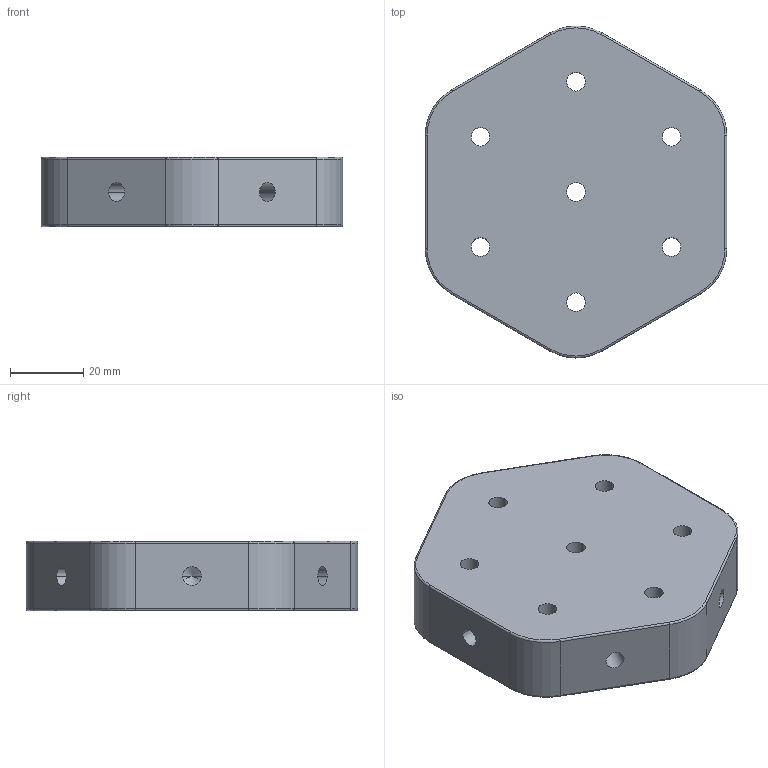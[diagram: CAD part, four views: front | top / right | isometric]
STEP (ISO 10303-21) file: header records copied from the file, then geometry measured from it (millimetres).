
FILE_DESCRIPTION (( 'STEP AP214' ), '1' );
FILE_NAME ('DRP-002-0507-00.STEP', '2013-12-20T16:22:43', ( 'ydmin' ), ( 'Microsoft' ), 'SwSTEP 2.0', 'SolidWorks 2013', '' );
FILE_SCHEMA (( 'AUTOMOTIVE_DESIGN' ));
Length unit declared in the file: inch
Products named in the file (1): DRP-002-0507-00
Bounding box: 82.5 x 90.84 x 19.05 mm (x, y, z)
Volume: 105866.4 mm3; surface area: 20510.3 mm2
Topology: 1 solids, 1 shells, 76 faces, 186 edges, 106 vertices
Faces by surface type: cylinder 44, cone 12, torus 12, plane 8
Entity records: 3214 total; most frequent: DIRECTION 428, CARTESIAN_POINT 357, ORIENTED_EDGE 348, AXIS2_PLACEMENT_3D 177, EDGE_CURVE 174, VERTEX_POINT 106, CIRCLE 100, EDGE_LOOP 96
